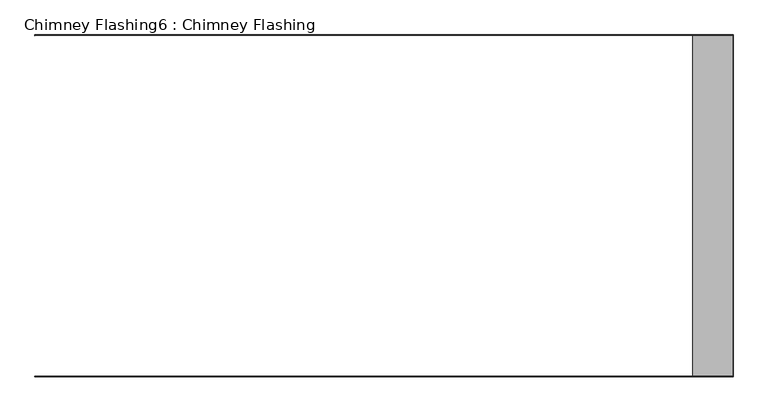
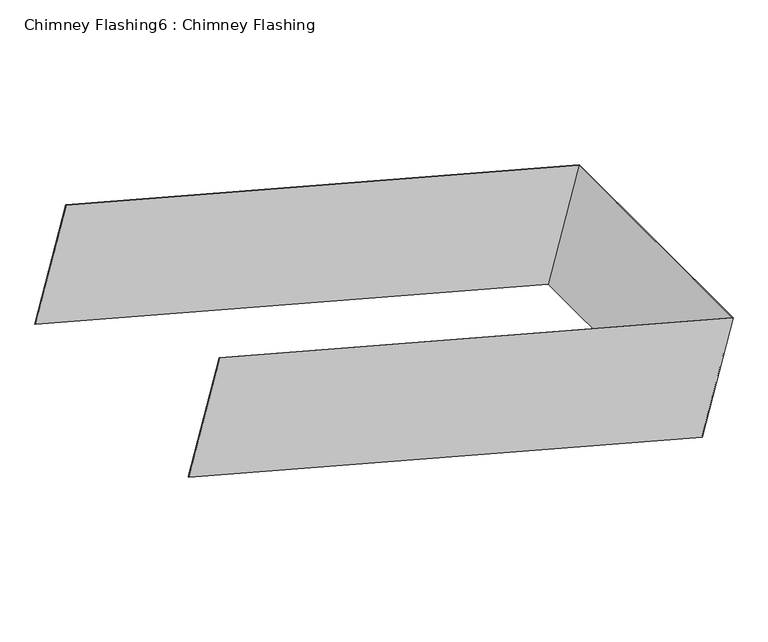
"""IFC4 building model written with IfcOpenShell, lengths in millimetres: proxy geometry, Chimney Flashing6 : Chimney Flashing."""

from ifc_helpers import new_model, si_unit, frame, origin, place, context, project, spatial, polyline, outline, extrude, source, transform, mapped, element, save


def chimney_flashing6_chimney_flashing_385691b3(model_context):
    return source(origin(), model_context, "Body", "SweptSolid", [
        extrude(outline(polyline([(0.0, -1.0), (0.0, 0.0), (1200.9999999, 0.0), (1200.9999999, -602.0), (0.0, -602.0), (0.0, -601.0), (1199.9999999, -601.0), (1199.9999999, -1.0), (0.0, -1.0)])), frame((-6064.0995454, -34611.8838318, 9984.2509927), z_axis=(0.2585656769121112, 0.0, 0.9659936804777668), x_axis=(0.9659936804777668, 0.0, -0.2585656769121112)), (0.0, 0.0, 1.0), 269.6718079),
    ])


if __name__ == "__main__":
    model = new_model("IFC4")
    model_context = context("Model", 3, world=origin())
    ifc_project = project(units=[si_unit("LENGTHUNIT", "METRE", prefix="MILLI")], contexts=[model_context])
    site = spatial("IfcSite", under=ifc_project)
    building = spatial("IfcBuilding", under=site)
    placement = place(None, origin())
    chimney_flashing6_chimney_flashing_shape = chimney_flashing6_chimney_flashing_385691b3(model_context)
    element("IfcBuildingElementProxy", 1, Name="Chimney Flashing6 : Chimney Flashing", ObjectType="Chimney Flashing6 : Chimney Flashing", at=placement, inside=building, context=model_context, shape_type="MappedRepresentation", body=[
        mapped(chimney_flashing6_chimney_flashing_shape, transform((0.0, 0.0, 0.0), x_axis=(1.0, 0.0, 0.0), y_axis=(0.0, 1.0, 0.0), z_axis=(0.0, 0.0, 1.0))),
    ])
    save(model, "model.ifc")
